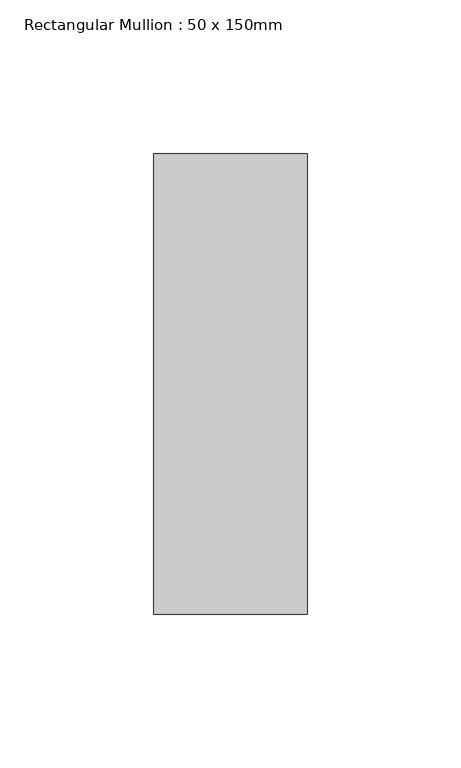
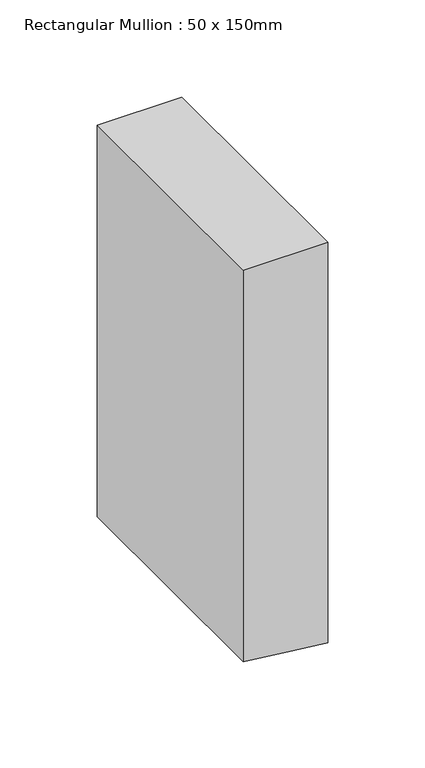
"""IFC4 building model written with IfcOpenShell, lengths in millimetres: member geometry, Rectangular Mullion : 50 x 150mm."""

from ifc_helpers import new_model, si_unit, frame, origin, place, context, project, spatial, polyline, outline, extrude, source, transform, mapped, element, save


def rectangular_mullion_50_x_150mm_6a4d5dc1(model_context):
    return source(origin(), model_context, "Body", "SweptSolid", [
        extrude(outline(polyline([(0.0, 25.0), (0.0, -25.0), (-245.5213888, -25.0), (-249.001548, 5.6423937), (-251.2000562, 25.0), (0.0, 25.0)])), frame((0.0, -75.0, 0.0), z_axis=(0.0, 1.0, 0.0), x_axis=(0.0, 0.0, 1.0)), (0.0, 0.0, 1.0), 150.0),
    ])


if __name__ == "__main__":
    model = new_model("IFC4")
    model_context = context("Model", 3, world=origin())
    ifc_project = project(units=[si_unit("LENGTHUNIT", "METRE", prefix="MILLI")], contexts=[model_context])
    site = spatial("IfcSite", under=ifc_project)
    building = spatial("IfcBuilding", under=site)
    placement = place(None, origin())
    rectangular_mullion_50_x_150mm_shape = rectangular_mullion_50_x_150mm_6a4d5dc1(model_context)
    element("IfcMember", 1, ObjectType="Rectangular Mullion : 50 x 150mm", at=placement, inside=building, context=model_context, shape_type="MappedRepresentation", body=[
        mapped(rectangular_mullion_50_x_150mm_shape, transform((0.0, 0.0, 0.0), x_axis=(1.0, 0.0, 0.0), y_axis=(0.0, 1.0, 0.0), z_axis=(0.0, 0.0, 1.0))),
    ])
    save(model, "model.ifc")
